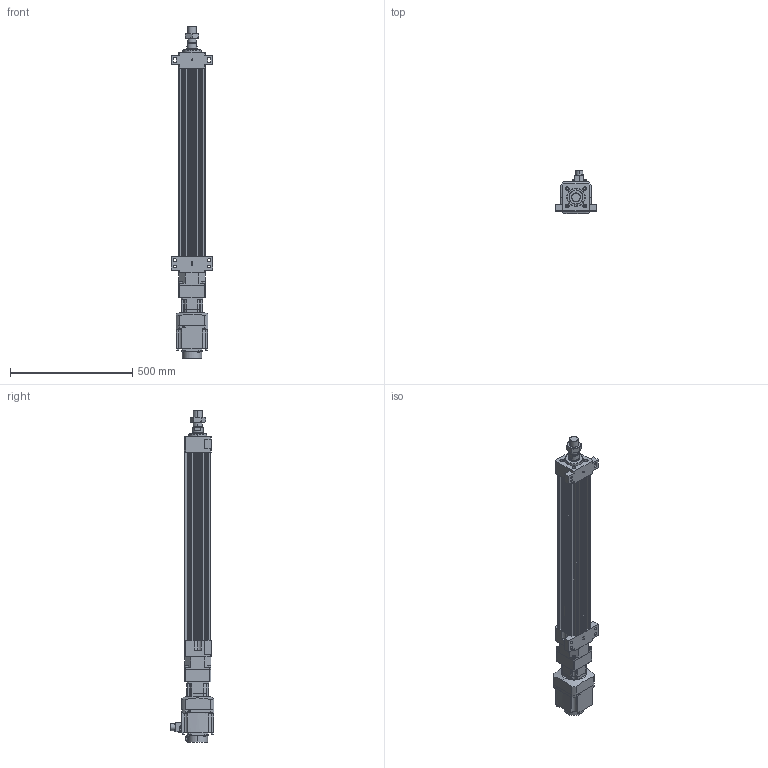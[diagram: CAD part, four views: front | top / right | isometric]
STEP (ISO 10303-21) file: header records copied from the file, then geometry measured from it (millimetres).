
FILE_DESCRIPTION (( 'STEP AP203' ), '1' );
FILE_NAME ('HES110NS(HS)-S600-W010G00-M-FFB.STEP', '2023-01-27T06:00:34', ( 'tms' ), ( '' ), 'SwSTEP 2.0', 'SolidWorks 2013', '' );
FILE_SCHEMA (( 'CONFIG_CONTROL_DESIGN' ));
Length unit declared in the file: millimetre
Products named in the file (8): M36X1.5P; HES110 ROD M ST600; HG-SR102; AB0901; HES110-S600-G090-FFB; AB090-003[HG-SR102B]; HES110NS(HS)-S600-W010G00-M-FFB; P0401301004
Assembly tree (7 placements, depth 3):
  HES110NS(HS)-S600-W010G00-M-FFB
    HES110-S600-G090-FFB
    HES110 ROD M ST600
    M36X1.5P
    AB090-003[HG-SR102B]
      AB0901
      P0401301004
    HG-SR102
Bounding box: 170 x 177.49 x 1358.5 mm (x, y, z)
Volume: 8797855.9 mm3; surface area: 1225777.2 mm2
Topology: 4 solids, 15 shells, 1189 faces, 3015 edges, 1964 vertices
Faces by surface type: plane 570, cylinder 529, cone 78, bspline 8, torus 4
Entity records: 37852 total; most frequent: CARTESIAN_POINT 7358, DIRECTION 6498, ORIENTED_EDGE 5982, EDGE_CURVE 3001, AXIS2_PLACEMENT_3D 2375, VERTEX_POINT 1964, LINE 1748, VECTOR 1748
